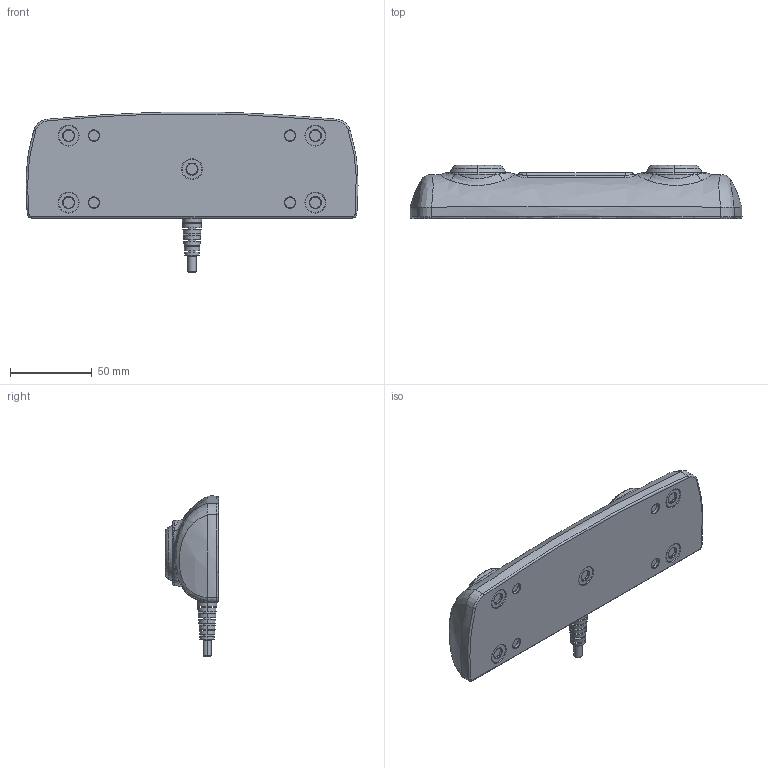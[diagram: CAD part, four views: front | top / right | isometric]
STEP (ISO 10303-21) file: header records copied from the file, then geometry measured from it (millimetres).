
FILE_DESCRIPTION (( 'STEP AP203' ), '1' );
FILE_NAME ('TFS.STEP', '2014-01-16T02:55:54', ( 'stanley' ), ( '' ), 'SwSTEP 2.0', 'SolidWorks 2010', '' );
FILE_SCHEMA (( 'CONFIG_CONTROL_DESIGN' ));
Length unit declared in the file: millimetre
Products named in the file (1): TFS
Bounding box: 203.21 x 32.5 x 98 mm (x, y, z)
Volume: 290698 mm3; surface area: 36805.2 mm2
Topology: 1 solids, 2 shells, 280 faces, 650 edges, 401 vertices
Faces by surface type: plane 94, bspline 66, cylinder 63, torus 31, cone 24, sphere 2
Entity records: 22878 total; most frequent: CARTESIAN_POINT 16642, ORIENTED_EDGE 1296, DIRECTION 1256, EDGE_CURVE 648, AXIS2_PLACEMENT_3D 528, VERTEX_POINT 401, CIRCLE 313, EDGE_LOOP 309
